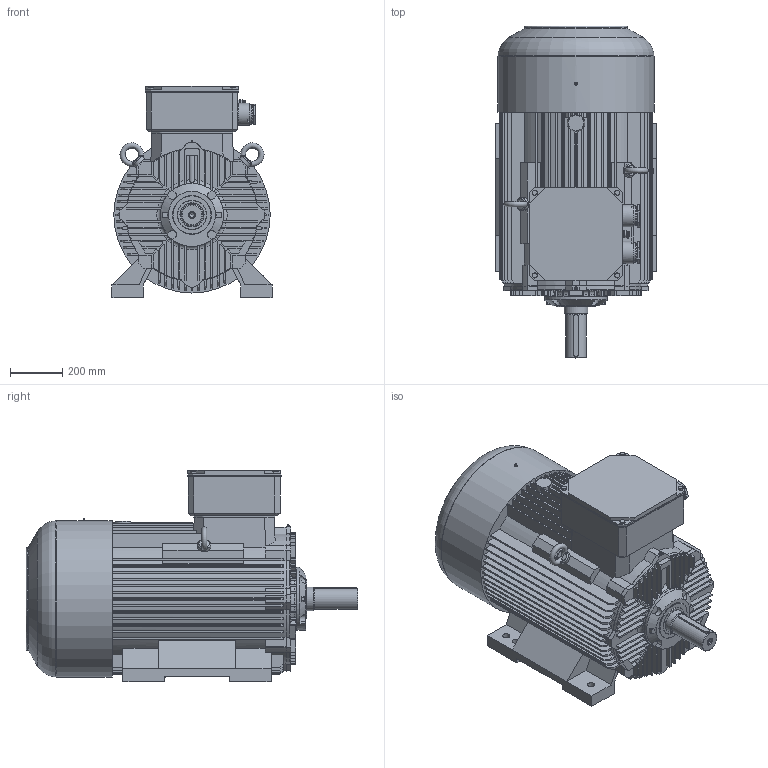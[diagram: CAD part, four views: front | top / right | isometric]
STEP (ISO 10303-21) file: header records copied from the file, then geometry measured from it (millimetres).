
FILE_DESCRIPTION(/* description */ ('Unknown'),/* implementation_level */ '2;1');
FILE_NAME(/* name */ '3SIE315S4_8, M4A_B, 6A, 8A_B',/* time_stamp */ '2021-04-12T13:34:16+02:00',/* author */ ('Unknown'),/* organization */ ('Unknown'),/* preprocessor_version */ 'ST-DEVELOPER v16.7',/* originating_system */ 'DEX',/* authorisation */ $);
FILE_SCHEMA (('AUTOMOTIVE_DESIGN {1 0 10303 214 3 1 1}'));
Length unit declared in the file: millimetre
Products named in the file (1): 3SIE315_S4 2kw (S09-557-063)
Bounding box: 610 x 1265 x 804.5 mm (x, y, z)
Volume: 266916734.4 mm3; surface area: 6278210.4 mm2
Topology: 1 solids, 26 shells, 1351 faces, 3623 edges, 2370 vertices
Faces by surface type: plane 890, cylinder 265, cone 97, torus 83, bspline 16
Full cylindrical faces by diameter (mm): 1.6 x2, 4.917 x2, 5 x3, 10.106 x8, 12.894 x1, 13.835 x1, 16.63 x4, 17.294 x1, 19.6 x2, 19.978 x1, 20 x1, 20.752 x4, 21 x1, 26.234 x1, 26.969 x1, 28 x6, 36 x1, 50 x2, 55 x2, 57 x4, 65 x4, 70 x2, 71 x6, 72 x2, 72.752 x2, 76 x2, 79.999 x1, 85 x2, 86.5 x1, 89.5 x1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
Entity records: 51840 total; most frequent: CARTESIAN_POINT 9491, ORIENTED_EDGE 6792, DIRECTION 6641, EDGE_CURVE 3396, VERTEX_POINT 2318, AXIS2_PLACEMENT_3D 2248, LINE 2145, VECTOR 2145
